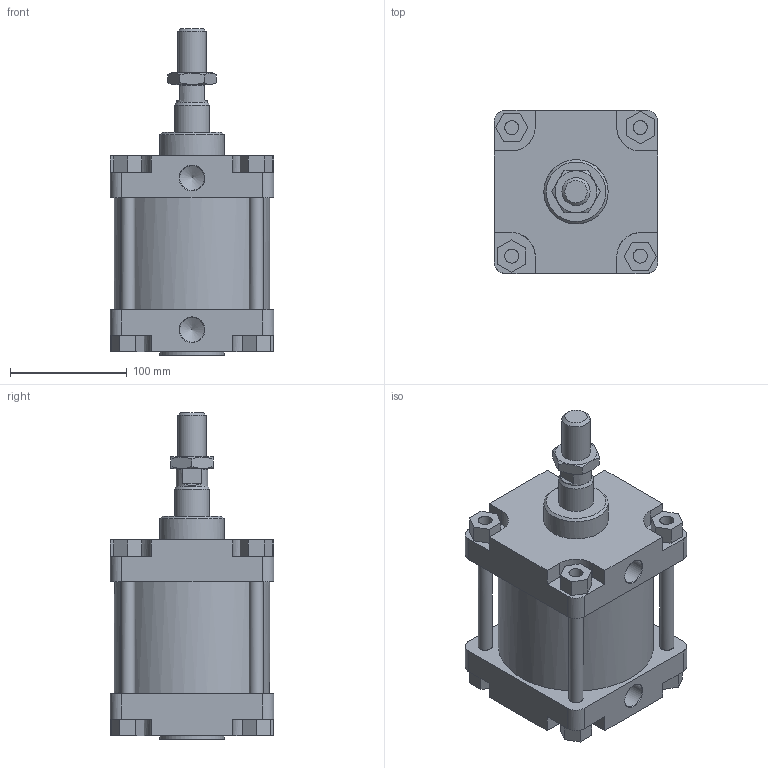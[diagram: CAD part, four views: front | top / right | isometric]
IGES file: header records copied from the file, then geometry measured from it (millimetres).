
Global section: file name: 1304_125_0000_01A; native system: Autodesk Inventor 2014; preprocessor: unknown; author: A. Manieri; date: 20161124.142212; units: millimetre
Bounding box: 140 x 140 x 280 mm (x, y, z)
Volume: 2775333.6 mm3; surface area: 319555.3 mm2
Topology: 9 solids, 9 shells, 175 faces, 440 edges, 295 vertices
Faces by surface type: bspline 175
